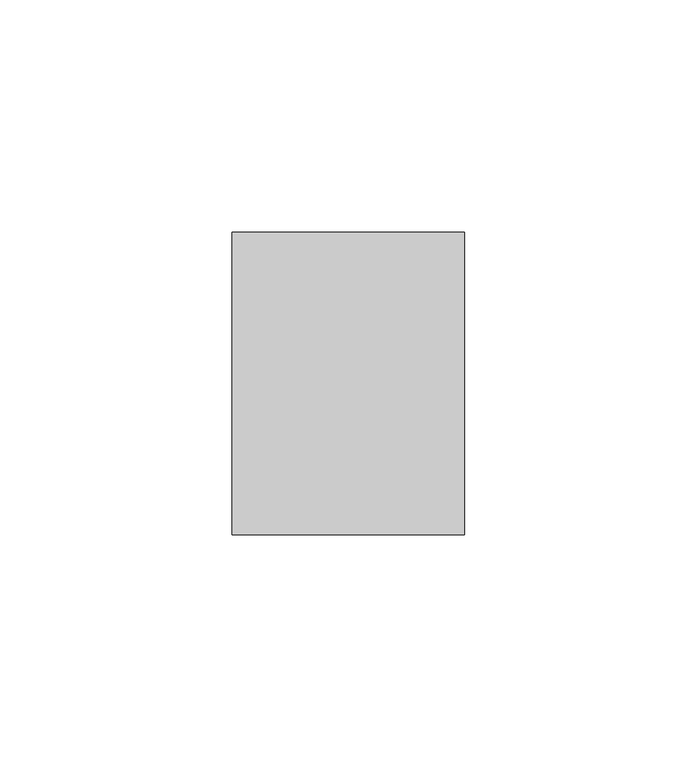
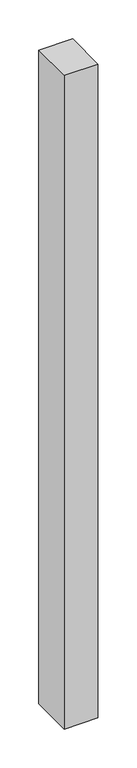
"""IFC4 building model written with IfcOpenShell, lengths in millimetres: member geometry, Прямоугольный импост : 50 мм x 65 мм."""

from ifc_helpers import new_model, si_unit, frame, origin, place, context, project, spatial, polyline, outline, extrude, source, transform, mapped, element, save


def member_90bb8290(model_context):
    return source(origin(), model_context, "Body", "SweptSolid", [
        extrude(outline(polyline([(25.0, 32.5), (25.0, -32.5), (-25.0, -32.5), (-25.0, 32.5), (25.0, 32.5)])), frame((0.0, 0.0, -1025.3034414), z_axis=(0.0, 0.0, 1.0), x_axis=(1.0, 0.0, 0.0)), (0.0, 0.0, 1.0), 1025.3034414),
    ])


if __name__ == "__main__":
    model = new_model("IFC4")
    model_context = context("Model", 3, world=origin())
    ifc_project = project(units=[si_unit("LENGTHUNIT", "METRE", prefix="MILLI")], contexts=[model_context])
    site = spatial("IfcSite", under=ifc_project)
    building = spatial("IfcBuilding", under=site)
    placement = place(None, origin())
    member_shape = member_90bb8290(model_context)
    element("IfcMember", 1, ObjectType="Прямоугольный импост : 50 мм x 65 мм", at=placement, inside=building, context=model_context, shape_type="MappedRepresentation", body=[
        mapped(member_shape, transform((0.0, 0.0, 0.0), x_axis=(1.0, 0.0, 0.0), y_axis=(0.0, 1.0, 0.0), z_axis=(0.0, 0.0, 1.0))),
    ])
    save(model, "model.ifc")
